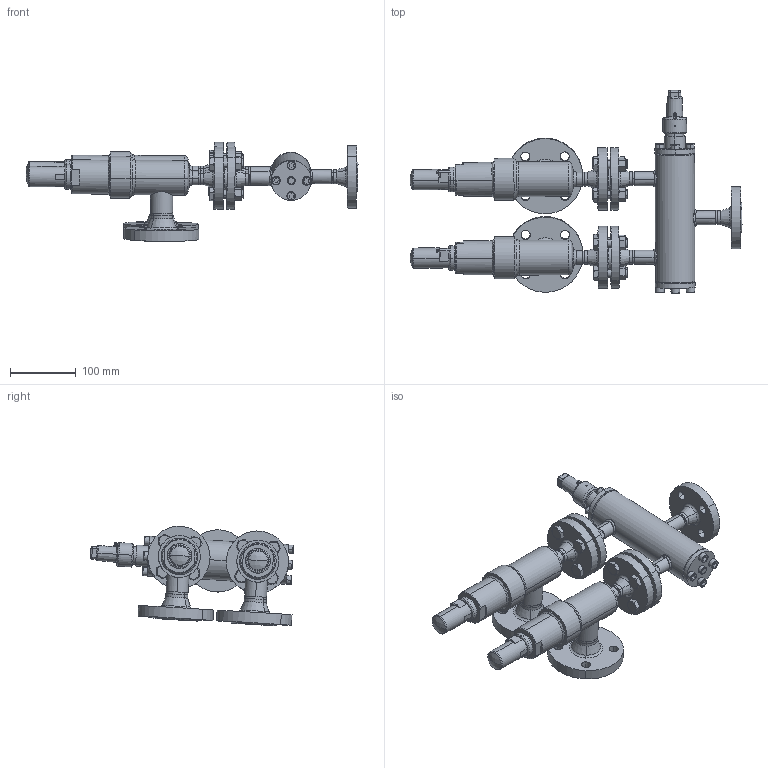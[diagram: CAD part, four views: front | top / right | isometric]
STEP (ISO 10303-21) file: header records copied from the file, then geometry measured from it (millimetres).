
FILE_DESCRIPTION (( 'STEP AP214' ), '1' );
FILE_NAME ('WVB-SVAA_1A5FL_DN15_DIN-FL_seitlich.STEP', '2010-09-09T06:36:54', ( 'Eckhard Grams' ), ( 'AWP Kälte Klima Armaturen GmbH' ), 'SwSTEP 2.0', 'SolidWorks 2002296', '' );
FILE_SCHEMA (( 'AUTOMOTIVE_DESIGN' ));
Length unit declared in the file: millimetre
Products named in the file (31): WVB-SVAA_1A5FL_DN15_DIN-FL_seitlich; WVB23020D10-DN015_DIN-FL-N-F_PS40_Standard; Geh,kpl24020E10-DN15_DIN-FL-N-F_PS40_Standard; Geh,kpl24000E10_DN15_R1_PS40_Standard; Rohrstutzen-24000E10-DN15_R1_Standard; Gehäuse24000E10-DN15_R1_PS40_Standard; Schw-24000E10-DN15_Standard; Flansch-DIN2635-Feder_PS40_DIN-Flansch-DN015_PS40-Feder; bead24020-10-3_Standard; bead24020-10-2_Standard; bead24020-10-1_Standard; AVB16300K10_Deck+Schr-DN10-20_Standard; Deckel16300K10-DN10-20_Standard; Zylinderschraube-DIN912_M 8x  16; Kappe 96300E10_DN6-20 (M27x2)_Standard; WVB-R23000K10_Deck+Schr-DN10-20_Standard; Deckel24000E10-DN10-20_Standard; Zylinderschraube-DIN912_M 8x  25; SVAA 45620D10-DN15(25)_DIN; Haube 45700E10-5260003_DN15; Kappe SVA-SVU-ORV_DN10-40 (M27x1,5)_Standard; Flachdichtg-Alu-DN15; Gehkpl 45720E10-5030001; Flansch-DIN2635-Nut_PS40_DIN-Flansch-DN015_PS40-Nut; Rohrstutzen-A 45700E10-5036004_DN15(25)_Standard; Geh 45700E10-5034004_DN15; Flansch-DIN2635-Nut_PS40_DIN-Flansch-DN025_PS40-Nut; bead Geh,kpl 45720E10-2_Standard; bead Geh,kpl 45720E10-1_Standard; Sechskantschraube-DIN933_M12x 45; Sechskantmutter-DIN934_M12
Assembly tree (57 placements, depth 5):
  WVB-SVAA_1A5FL_DN15_DIN-FL_seitlich
    Sechskantmutter-DIN934_M12  x8
    Sechskantschraube-DIN933_M12x 45  x8
    WVB23020D10-DN015_DIN-FL-N-F_PS40_Standard
      Kappe 96300E10_DN6-20 (M27x2)_Standard
      Geh,kpl24020E10-DN15_DIN-FL-N-F_PS40_Standard
        Flansch-DIN2635-Nut_PS40_DIN-Flansch-DN015_PS40-Nut
        Flansch-DIN2635-Feder_PS40_DIN-Flansch-DN015_PS40-Feder  x2
        bead24020-10-1_Standard
        bead24020-10-3_Standard
        bead24020-10-2_Standard
        Geh,kpl24000E10_DN15_R1_PS40_Standard
          Rohrstutzen-24000E10-DN15_R1_Standard  x3
          Gehäuse24000E10-DN15_R1_PS40_Standard
          Schw-24000E10-DN15_Standard  x3
      WVB-R23000K10_Deck+Schr-DN10-20_Standard
        Zylinderschraube-DIN912_M 8x  25  x4
        Deckel24000E10-DN10-20_Standard
      AVB16300K10_Deck+Schr-DN10-20_Standard
        Zylinderschraube-DIN912_M 8x  16  x4
        Deckel16300K10-DN10-20_Standard
    SVAA 45620D10-DN15(25)_DIN  x2
      Flachdichtg-Alu-DN15
      Haube 45700E10-5260003_DN15
      Kappe SVA-SVU-ORV_DN10-40 (M27x1,5)_Standard
      Gehkpl 45720E10-5030001
        Geh 45700E10-5034004_DN15
        bead Geh,kpl 45720E10-2_Standard
        Flansch-DIN2635-Nut_PS40_DIN-Flansch-DN025_PS40-Nut
        Flansch-DIN2635-Nut_PS40_DIN-Flansch-DN015_PS40-Nut
        bead Geh,kpl 45720E10-1_Standard
        Rohrstutzen-A 45700E10-5036004_DN15(25)_Standard
Bounding box: 506.89 x 310.16 x 151.85 mm (x, y, z)
Volume: 1853039.8 mm3; surface area: 525593.1 mm2
Topology: 58 solids, 58 shells, 1369 faces, 3169 edges, 1979 vertices
Faces by surface type: cylinder 508, plane 379, cone 321, torus 99, bspline 54, sphere 8
Entity records: 42150 total; most frequent: CARTESIAN_POINT 25447, DIRECTION 3073, ORIENTED_EDGE 2874, EDGE_CURVE 1437, AXIS2_PLACEMENT_3D 1301, VERTEX_POINT 898, EDGE_LOOP 729, CIRCLE 656
